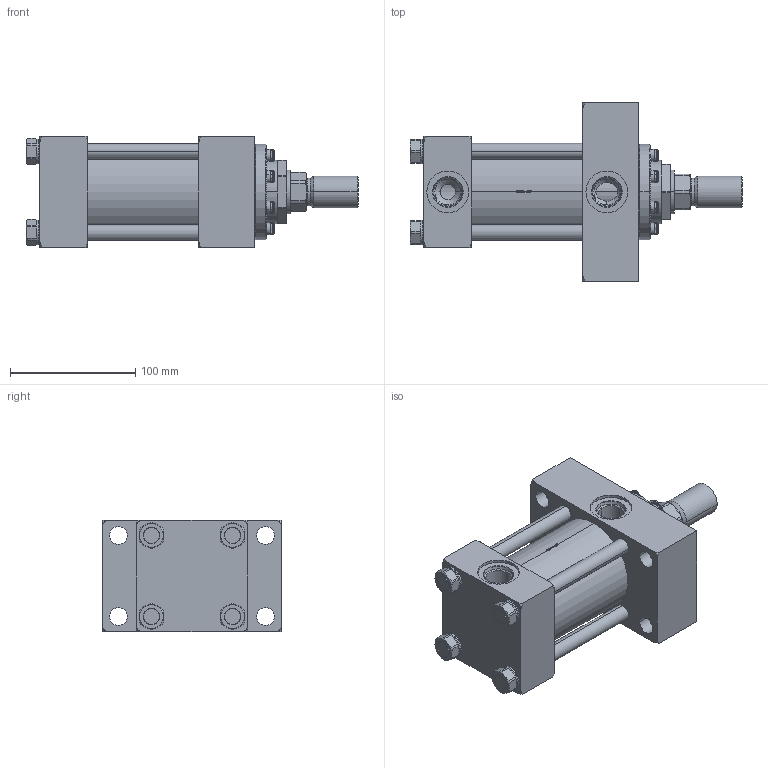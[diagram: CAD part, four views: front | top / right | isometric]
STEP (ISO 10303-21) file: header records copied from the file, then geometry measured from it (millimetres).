
FILE_DESCRIPTION (( 'STEP AP214' ), '1' );
FILE_NAME ('2.50JJ2HHNAT134A2.000.step', '2026-03-26T21:19:34', ( '' ), ( '' ), 'SwSTEP 2.0', 'SolidWorks 2023', '' );
FILE_SCHEMA (( 'AUTOMOTIVE_DESIGN' ));
Length unit declared in the file: inch
Products named in the file (1): 2.50JJ2HHNAT134A2.000
Bounding box: 265.11 x 142.88 x 88.9 mm (x, y, z)
Volume: 1225110.4 mm3; surface area: 253529.7 mm2
Topology: 42 solids, 42 shells, 1617 faces, 4196 edges, 2674 vertices
Faces by surface type: plane 827, cylinder 515, cone 229, bspline 38, torus 8
Entity records: 74366 total; most frequent: CARTESIAN_POINT 14111, ORIENTED_EDGE 8312, DIRECTION 7952, EDGE_CURVE 4156, AXIS2_PLACEMENT_3D 3058, VERTEX_POINT 2674, VECTOR 1836, LINE 1836
